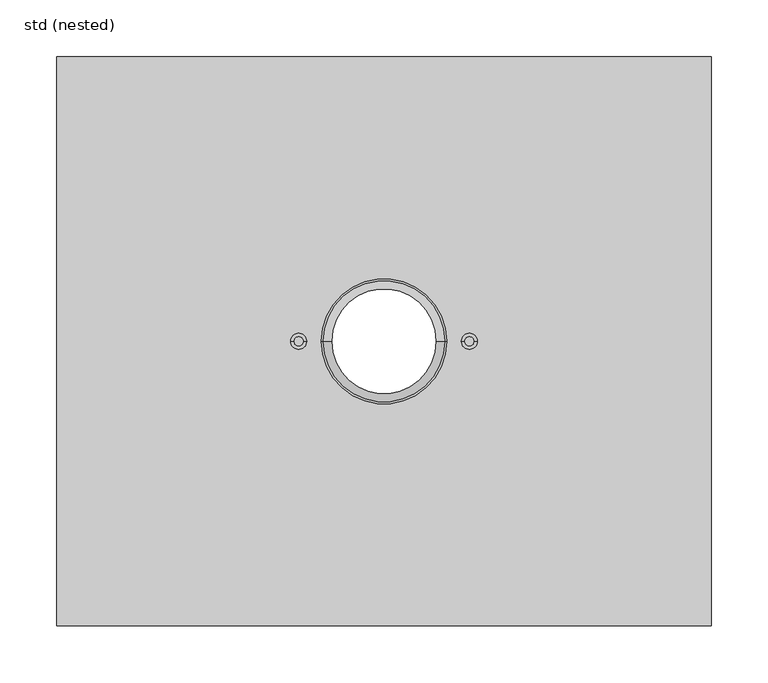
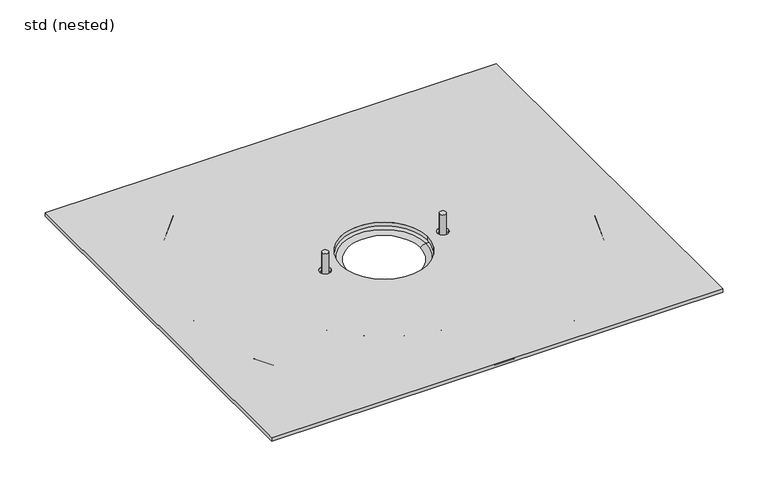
"""IFC4 building model written with IfcOpenShell, lengths in millimetres: sanitary terminal geometry, NLRS_50_PF_AV_Akasison Daktrechter XL75 B Base Outlet_Akatherm : std (nested)."""

from ifc_helpers import new_model, si_unit, point, frame, frame_2d, origin, origin_with_axes, origin_2d, place, context, project, spatial, polyline, circle_curve, ellipse_curve, trimmed, segment, composite_curve, outline, extrude, source, transform, mapped, element, save
from ifc_brep_helpers import plane_surface, revolved_surface, advanced_brep


def std_nested_7d8345e2(model_context):
    return source(origin(), model_context, "Body", "SolidModel", [
        extrude(outline(composite_curve([segment(trimmed(circle_curve(frame_2d((-75.0, 0.0)), 4.0), [point((-79.0, 0.0))], [point((-71.0, 0.0))], False, "CARTESIAN"), True, "CONTINUOUS"), segment(trimmed(circle_curve(frame_2d((-75.0, 0.0)), 4.0), [point((-71.0, 0.0))], [point((-79.0, 0.0))], False, "CARTESIAN"), True, "CONTINUOUS")], self_intersect=False)), frame((0.0, 0.0, -17.6), z_axis=(0.0, 0.0, 1.0), x_axis=(1.0, 0.0, 0.0)), (0.0, 0.0, 1.0), 47.0),
        extrude(outline(composite_curve([segment(trimmed(circle_curve(frame_2d((75.0, 0.0)), 4.0), [point((71.0, 0.0))], [point((79.0, 0.0))], False, "CARTESIAN"), True, "CONTINUOUS"), segment(trimmed(circle_curve(frame_2d((75.0, 0.0)), 4.0), [point((79.0, 0.0))], [point((71.0, 0.0))], False, "CARTESIAN"), True, "CONTINUOUS")], self_intersect=False)), frame((0.0, 0.0, -17.6), z_axis=(0.0, 0.0, 1.0), x_axis=(1.0, 0.0, 0.0)), (0.0, 0.0, 1.0), 47.0),
        advanced_brep(
        [(243.5, 0.0, -3.0), (-243.5, 0.0, -3.0), (-245.0, 0.0, -1.5), (245.0, 0.0, -1.5), (157.4281513, 0.0, -3.0), (-157.4281513, 0.0, -3.0), (153.4368225, 0.0, -4.9884731), (-153.4368225, 0.0, -4.9884731), (149.4282032, 0.0, -7.0), (-149.4282032, 0.0, -7.0), (46.1335716, 0.0, -7.0), (-46.1335716, 0.0, -7.0), (243.5, 0.0, 0.0), (-243.5, 0.0, 0.0), (-104.7679492, 0.0, 0.0), (104.7679492, 0.0, 0.0), (53.275, 0.0, -4.0), (-53.275, 0.0, -4.0), (92.5, 0.0, -4.0), (-92.5, 0.0, -4.0), (99.9641016, 0.0, -2.0), (-99.9641016, 0.0, -2.0), (102.2679492, 0.0, -0.669873), (-102.2679492, 0.0, -0.669873)],
        [
            (0, 1, circle_curve(frame((0.0, 0.0, -3.0), z_axis=(0.0, 0.0, 1.0), x_axis=(-1.0, 0.0, 0.0)), 243.5)),
            (1, 2, circle_curve(frame((-243.5, 0.0, -1.5), z_axis=(0.0, 1.0, 0.0), x_axis=(1.0, 0.0, 0.0)), 1.5)),
            (2, 3, circle_curve(frame((0.0, 0.0, -1.5), z_axis=(0.0, 0.0, -1.0), x_axis=(-1.0, 0.0, 0.0)), 245.0)),
            (3, 0, circle_curve(frame((243.5, 0.0, -1.5), z_axis=(0.0, 1.0, 0.0), x_axis=(-1.0, 0.0, 0.0)), 1.5)),
            (1, 0, circle_curve(frame((0.0, 0.0, -3.0), z_axis=(0.0, 0.0, 1.0), x_axis=(-1.0, 0.0, 0.0)), 243.5)),
            (3, 2, circle_curve(frame((0.0, 0.0, -1.5), z_axis=(0.0, 0.0, -1.0), x_axis=(-1.0, 0.0, 0.0)), 245.0)),
            (4, 5, circle_curve(frame((0.0, 0.0, -3.0), z_axis=(0.0, 0.0, 1.0), x_axis=(-1.0, 0.0, 0.0)), 157.4281513)),
            (5, 1),
            (0, 4),
            (5, 4, circle_curve(frame((0.0, 0.0, -3.0), z_axis=(0.0, 0.0, 1.0), x_axis=(-1.0, 0.0, 0.0)), 157.4281513)),
            (6, 7, circle_curve(frame((0.0, 0.0, -4.9884731), z_axis=(0.0, 0.0, 1.0), x_axis=(-1.0, 0.0, 0.0)), 153.4368225)),
            (7, 5, circle_curve(frame((-157.4281513, 0.0, -8.0), z_axis=(0.0, -1.0, 0.0), x_axis=(1.0, 0.0, 0.0)), 5.0)),
            (4, 6, circle_curve(frame((157.4281513, 0.0, -8.0), z_axis=(0.0, -1.0, 0.0), x_axis=(-1.0, 0.0, 0.0)), 5.0)),
            (7, 6, circle_curve(frame((0.0, 0.0, -4.9884731), z_axis=(0.0, 0.0, 1.0), x_axis=(-1.0, 0.0, 0.0)), 153.4368225)),
            (8, 9, circle_curve(frame((0.0, 0.0, -7.0), z_axis=(0.0, 0.0, 1.0), x_axis=(-1.0, 0.0, 0.0)), 149.4282032)),
            (9, 7, circle_curve(frame((-149.4282032, 0.0, -2.0), z_axis=(0.0, 1.0, 0.0), x_axis=(1.0, 0.0, 0.0)), 5.0)),
            (6, 8, circle_curve(frame((149.4282032, 0.0, -2.0), z_axis=(0.0, 1.0, 0.0), x_axis=(-1.0, 0.0, 0.0)), 5.0)),
            (9, 8, circle_curve(frame((0.0, 0.0, -7.0), z_axis=(0.0, 0.0, 1.0), x_axis=(-1.0, 0.0, 0.0)), 149.4282032)),
            (10, 11, circle_curve(frame((0.0, 0.0, -7.0), z_axis=(0.0, 0.0, 1.0), x_axis=(-1.0, 0.0, 0.0)), 46.1335716)),
            (11, 9),
            (8, 10),
            (11, 10, circle_curve(frame((0.0, 0.0, -7.0), z_axis=(0.0, 0.0, 1.0), x_axis=(-1.0, 0.0, 0.0)), 46.1335716)),
            (12, 13, circle_curve(frame((0.0, 0.0, 0.0), z_axis=(0.0, 0.0, 1.0), x_axis=(-1.0, 0.0, 0.0)), 243.5)),
            (13, 14),
            (14, 15, circle_curve(frame((0.0, 0.0, 0.0), z_axis=(0.0, 0.0, -1.0), x_axis=(-1.0, 0.0, 0.0)), 104.7679492)),
            (15, 12),
            (13, 12, circle_curve(frame((0.0, 0.0, 0.0), z_axis=(0.0, 0.0, 1.0), x_axis=(-1.0, 0.0, 0.0)), 243.5)),
            (15, 14, circle_curve(frame((0.0, 0.0, 0.0), z_axis=(0.0, 0.0, -1.0), x_axis=(-1.0, 0.0, 0.0)), 104.7679492)),
            (2, 13, circle_curve(frame((-243.5, 0.0, -1.5), z_axis=(0.0, 1.0, 0.0), x_axis=(1.0, 0.0, 0.0)), 1.5)),
            (12, 3, circle_curve(frame((243.5, 0.0, -1.5), z_axis=(0.0, 1.0, 0.0), x_axis=(-1.0, 0.0, 0.0)), 1.5)),
            (16, 17, circle_curve(frame((0.0, 0.0, -4.0), z_axis=(0.0, 0.0, 1.0), x_axis=(-1.0, 0.0, 0.0)), 53.275)),
            (17, 11, circle_curve(frame((-53.275, 0.0, -14.0), z_axis=(0.0, 1.0, 0.0), x_axis=(1.0, 0.0, 0.0)), 10.0)),
            (10, 16, circle_curve(frame((53.275, 0.0, -14.0), z_axis=(0.0, 1.0, 0.0), x_axis=(-1.0, 0.0, 0.0)), 10.0)),
            (17, 16, circle_curve(frame((0.0, 0.0, -4.0), z_axis=(0.0, 0.0, 1.0), x_axis=(-1.0, 0.0, 0.0)), 53.275)),
            (18, 19, circle_curve(frame((0.0, 0.0, -4.0), z_axis=(0.0, 0.0, 1.0), x_axis=(-1.0, 0.0, 0.0)), 92.5)),
            (19, 17),
            (16, 18),
            (19, 18, circle_curve(frame((0.0, 0.0, -4.0), z_axis=(0.0, 0.0, 1.0), x_axis=(-1.0, 0.0, 0.0)), 92.5)),
            (20, 21, circle_curve(frame((0.0, 0.0, -2.0), z_axis=(0.0, 0.0, 1.0), x_axis=(-1.0, 0.0, 0.0)), 99.9641016)),
            (21, 19, circle_curve(frame((-92.5, 0.0, 10.9282032), z_axis=(0.0, -1.0, 0.0), x_axis=(1.0, 0.0, 0.0)), 14.9282032)),
            (18, 20, circle_curve(frame((92.5, 0.0, 10.9282032), z_axis=(0.0, -1.0, 0.0), x_axis=(-1.0, 0.0, 0.0)), 14.9282032)),
            (21, 20, circle_curve(frame((0.0, 0.0, -2.0), z_axis=(0.0, 0.0, 1.0), x_axis=(-1.0, 0.0, 0.0)), 99.9641016)),
            (22, 23, circle_curve(frame((0.0, 0.0, -0.669873), z_axis=(0.0, 0.0, 1.0), x_axis=(-1.0, 0.0, 0.0)), 102.2679492)),
            (23, 21),
            (20, 22),
            (23, 22, circle_curve(frame((0.0, 0.0, -0.669873), z_axis=(0.0, 0.0, 1.0), x_axis=(-1.0, 0.0, 0.0)), 102.2679492)),
            (14, 23, circle_curve(frame((-104.7679492, 0.0, -5.0), z_axis=(0.0, 1.0, 0.0), x_axis=(1.0, 0.0, 0.0)), 5.0)),
            (22, 15, circle_curve(frame((104.7679492, 0.0, -5.0), z_axis=(0.0, 1.0, 0.0), x_axis=(-1.0, 0.0, 0.0)), 5.0)),
        ],
        [
            revolved_surface(trimmed(ellipse_curve(frame((-243.5, 0.0, -1.5), z_axis=(0.0, -1.0, 0.0), x_axis=(1.0, 0.0, 0.0)), 1.5, 1.5), [point((-245.0, 0.0, -1.5))], [point((-243.5, 0.0, -3.0))], True, "CARTESIAN"), (0.0, 0.0, 70.0), (0.0, 0.0, -1.0)),
            plane_surface(frame((0.0, 0.0, -3.0), z_axis=(0.0, 0.0, -1.0), x_axis=(-1.0, 0.0, 0.0))),
            revolved_surface(trimmed(ellipse_curve(frame((-157.4281513, 0.0, -8.0), z_axis=(0.0, 1.0, 0.0), x_axis=(1.0, 0.0, 0.0)), 5.0, 5.0), [point((-157.4281513, 0.0, -3.0))], [point((-153.4368225, 0.0, -4.9884731))], True, "CARTESIAN"), (0.0, 0.0, 70.0), (0.0, 0.0, -1.0)),
            revolved_surface(trimmed(ellipse_curve(frame((-149.4282032, 0.0, -2.0), z_axis=(0.0, -1.0, 0.0), x_axis=(1.0, 0.0, 0.0)), 5.0, 5.0), [point((-153.4368225, 0.0, -4.9884731))], [point((-149.4282032, 0.0, -7.0))], True, "CARTESIAN"), (0.0, 0.0, 70.0), (0.0, 0.0, -1.0)),
            plane_surface(frame((0.0, 0.0, -7.0), z_axis=(0.0, 0.0, -1.0), x_axis=(-1.0, 0.0, 0.0))),
            plane_surface(frame((0.0, 0.0, 0.0), z_axis=(0.0, 0.0, 1.0), x_axis=(-1.0, 0.0, 0.0))),
            revolved_surface(trimmed(ellipse_curve(frame((-243.5, 0.0, -1.5), z_axis=(0.0, -1.0, 0.0), x_axis=(1.0, 0.0, 0.0)), 1.5, 1.5), [point((-243.5, 0.0, 0.0))], [point((-245.0, 0.0, -1.5))], True, "CARTESIAN"), (0.0, 0.0, 70.0), (0.0, 0.0, -1.0)),
            revolved_surface(trimmed(ellipse_curve(frame((-53.275, 0.0, -14.0), z_axis=(0.0, -1.0, 0.0), x_axis=(1.0, 0.0, 0.0)), 10.0, 10.0), [point((-46.1335716, 0.0, -7.0))], [point((-53.275, 0.0, -4.0))], True, "CARTESIAN"), (0.0, 0.0, 70.0), (0.0, 0.0, -1.0)),
            plane_surface(frame((0.0, 0.0, -4.0), z_axis=(0.0, 0.0, 1.0), x_axis=(-1.0, 0.0, 0.0))),
            revolved_surface(trimmed(ellipse_curve(frame((-92.5, 0.0, 10.9282032), z_axis=(0.0, 1.0, 0.0), x_axis=(1.0, 0.0, 0.0)), 14.9282032, 14.9282032), [point((-92.5, 0.0, -4.0))], [point((-99.9641016, 0.0, -2.0))], True, "CARTESIAN"), (0.0, 0.0, 70.0), (0.0, 0.0, -1.0)),
            revolved_surface(polyline([(-99.9641016, 0.0, -2.0), (-102.2679492, 0.0, -0.669873)]), (0.0, 0.0, 70.0), (0.0, 0.0, -1.0)),
            revolved_surface(trimmed(ellipse_curve(frame((-104.7679492, 0.0, -5.0), z_axis=(0.0, -1.0, 0.0), x_axis=(1.0, 0.0, 0.0)), 5.0, 5.0), [point((-102.2679492, 0.0, -0.669873))], [point((-104.7679492, 0.0, 0.0))], True, "CARTESIAN"), (0.0, 0.0, 70.0), (0.0, 0.0, -1.0)),
        ],
        [
            (0, [[1, 2, 3, 4]]),
            (0, [[5, -4, 6, -2]]),
            (1, [[7, 8, -1, 9]]),
            (1, [[10, -9, -5, -8]]),
            (2, [[11, 12, -7, 13]]),
            (2, [[14, -13, -10, -12]]),
            (3, [[15, 16, -11, 17]]),
            (3, [[18, -17, -14, -16]]),
            (4, [[19, 20, -15, 21]]),
            (4, [[22, -21, -18, -20]]),
            (5, [[23, 24, 25, 26]]),
            (5, [[27, -26, 28, -24]]),
            (6, [[-3, 29, -23, 30]]),
            (6, [[-6, -30, -27, -29]]),
            (7, [[31, 32, -19, 33]]),
            (7, [[34, -33, -22, -32]]),
            (8, [[35, 36, -31, 37]]),
            (8, [[38, -37, -34, -36]]),
            (9, [[39, 40, -35, 41]]),
            (9, [[42, -41, -38, -40]]),
            (10, [[43, 44, -39, 45]]),
            (10, [[46, -45, -42, -44]]),
            (11, [[-25, 47, -43, 48]]),
            (11, [[-28, -48, -46, -47]]),
        ],
    ),
        extrude(outline(polyline([(-287.5, 250.0), (287.5, 250.0), (287.5, -250.0), (-287.5, -250.0), (-287.5, 250.0)]), holes=[composite_curve([segment(trimmed(circle_curve(origin_2d(), 55.0), [point((-55.0, 0.0))], [point((55.0, 0.0))], True, "CARTESIAN"), True, "CONTINUOUS"), segment(trimmed(circle_curve(origin_2d(), 55.0), [point((55.0, 0.0))], [point((-55.0, 0.0))], True, "CARTESIAN"), True, "CONTINUOUS")], self_intersect=False), composite_curve([segment(trimmed(circle_curve(frame_2d((-75.0, 0.0)), 7.0), [point((-82.0, 0.0))], [point((-68.0, 0.0))], True, "CARTESIAN"), True, "CONTINUOUS"), segment(trimmed(circle_curve(frame_2d((-75.0, 0.0)), 7.0), [point((-68.0, 0.0))], [point((-82.0, 0.0))], True, "CARTESIAN"), True, "CONTINUOUS")], self_intersect=False), composite_curve([segment(trimmed(circle_curve(frame_2d((75.0, 0.0)), 7.0), [point((68.0, 0.0))], [point((82.0, 0.0))], True, "CARTESIAN"), True, "CONTINUOUS"), segment(trimmed(circle_curve(frame_2d((75.0, 0.0)), 7.0), [point((82.0, 0.0))], [point((68.0, 0.0))], True, "CARTESIAN"), True, "CONTINUOUS")], self_intersect=False)]), origin_with_axes(), (0.0, 0.0, 1.0), 4.7),
    ])


if __name__ == "__main__":
    model = new_model("IFC4")
    model_context = context("Model", 3, world=origin())
    ifc_project = project(units=[si_unit("LENGTHUNIT", "METRE", prefix="MILLI")], contexts=[model_context])
    site = spatial("IfcSite", under=ifc_project)
    building = spatial("IfcBuilding", under=site)
    placement = place(None, origin())
    std_nested_shape = std_nested_7d8345e2(model_context)
    element("IfcSanitaryTerminal", 1, ObjectType="NLRS_50_PF_AV_Akasison Daktrechter XL75 B Base Outlet_Akatherm : std (nested)", at=placement, inside=building, context=model_context, shape_type="MappedRepresentation", body=[
        mapped(std_nested_shape, transform((0.0, 0.0, 0.0), x_axis=(1.0, 0.0, 0.0), y_axis=(0.0, 1.0, 0.0), z_axis=(0.0, 0.0, 1.0))),
    ])
    save(model, "model.ifc")
